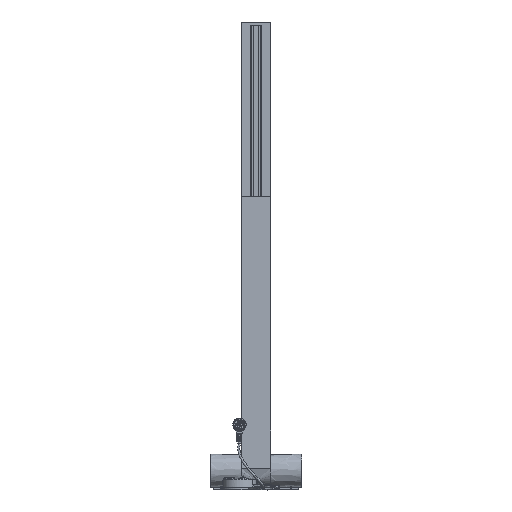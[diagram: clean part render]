
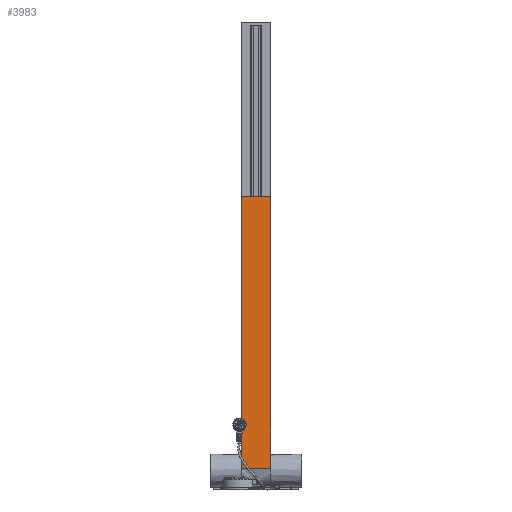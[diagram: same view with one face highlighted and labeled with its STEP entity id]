
A CAD part, left-side view. The second image highlights one B-rep face of the part: STEP entity #3983.
In plain terms, the highlighted free-form (B-spline) face has degree [2, 1] with [3, 2] control points.
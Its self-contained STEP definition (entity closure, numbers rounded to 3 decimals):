
#153=(
BOUNDED_CURVE()
B_SPLINE_CURVE(1,(#57432,#57433),.UNSPECIFIED.,.F.,.F.)
B_SPLINE_CURVE_WITH_KNOTS((2,2),(0.,80.),.UNSPECIFIED.)
CURVE()
GEOMETRIC_REPRESENTATION_ITEM()
RATIONAL_B_SPLINE_CURVE((1.,1.))
REPRESENTATION_ITEM('')
);
#156=(
BOUNDED_CURVE()
B_SPLINE_CURVE(2,(#57555,#57556,#57557),.UNSPECIFIED.,.F.,.F.)
B_SPLINE_CURVE_WITH_KNOTS((3,3),(-780.869,-86.344),
 .UNSPECIFIED.)
CURVE()
GEOMETRIC_REPRESENTATION_ITEM()
RATIONAL_B_SPLINE_CURVE((1.,1.,1.))
REPRESENTATION_ITEM('')
);
#157=(
BOUNDED_CURVE()
B_SPLINE_CURVE(2,(#57562,#57563,#57564),.UNSPECIFIED.,.F.,.F.)
B_SPLINE_CURVE_WITH_KNOTS((3,3),(86.344,780.869),
 .UNSPECIFIED.)
CURVE()
GEOMETRIC_REPRESENTATION_ITEM()
RATIONAL_B_SPLINE_CURVE((1.,1.,1.))
REPRESENTATION_ITEM('')
);
#188=(
BOUNDED_CURVE()
B_SPLINE_CURVE(2,(#58173,#58174,#58175),.UNSPECIFIED.,.F.,.F.)
B_SPLINE_CURVE_WITH_KNOTS((3,3),(-780.869,-86.344),
 .UNSPECIFIED.)
CURVE()
GEOMETRIC_REPRESENTATION_ITEM()
RATIONAL_B_SPLINE_CURVE((1.,1.,1.))
REPRESENTATION_ITEM('')
);
#191=(
BOUNDED_CURVE()
B_SPLINE_CURVE(2,(#58366,#58367,#58368),.UNSPECIFIED.,.F.,.F.)
B_SPLINE_CURVE_WITH_KNOTS((3,3),(86.344,780.869),
 .UNSPECIFIED.)
CURVE()
GEOMETRIC_REPRESENTATION_ITEM()
RATIONAL_B_SPLINE_CURVE((1.,1.,1.))
REPRESENTATION_ITEM('')
);
#2855=(
BOUNDED_SURFACE()
B_SPLINE_SURFACE(2,1,((#57177,#57178),(#57179,#57180),(#57181,#57182)),
 .UNSPECIFIED.,.F.,.F.,.F.)
B_SPLINE_SURFACE_WITH_KNOTS((3,3),(2,2),(22.429,86.344),
(0.,80.),.UNSPECIFIED.)
GEOMETRIC_REPRESENTATION_ITEM()
RATIONAL_B_SPLINE_SURFACE(((1.,1.),(0.778,0.778),
(1.,1.)))
REPRESENTATION_ITEM('')
SURFACE()
);
#2856=(
BOUNDED_SURFACE()
B_SPLINE_SURFACE(2,1,((#57183,#57184),(#57185,#57186),(#57187,#57188)),
 .UNSPECIFIED.,.F.,.F.,.F.)
B_SPLINE_SURFACE_WITH_KNOTS((3,3),(2,2),(86.344,845.805),
(0.,80.),.UNSPECIFIED.)
GEOMETRIC_REPRESENTATION_ITEM()
RATIONAL_B_SPLINE_SURFACE(((1.,1.),(1.,1.),(1.,1.)))
REPRESENTATION_ITEM('')
SURFACE()
);
#3983=ADVANCED_FACE('',(#5710),#2856,.T.);
#5710=FACE_OUTER_BOUND('',#7446,.T.);
#7446=EDGE_LOOP('',(#9424,#9425,#9426,#9427));
#9424=ORIENTED_EDGE('',*,*,#38487,.T.);
#9425=ORIENTED_EDGE('',*,*,#38488,.T.);
#9426=ORIENTED_EDGE('',*,*,#38482,.F.);
#9427=ORIENTED_EDGE('',*,*,#38489,.T.);
#17736=PCURVE('',#2855,#26053);
#17741=PCURVE('',#2856,#26058);
#17742=PCURVE('',#2856,#26059);
#17743=PCURVE('',#2856,#26060);
#17744=PCURVE('',#2856,#26061);
#17804=PCURVE('',#55019,#26121);
#17852=PCURVE('',#55028,#26169);
#17854=PCURVE('',#55029,#26171);
#26053=DEFINITIONAL_REPRESENTATION('',(#42838),#142542);
#26058=DEFINITIONAL_REPRESENTATION('',(#42846),#142542);
#26059=DEFINITIONAL_REPRESENTATION('',(#42847),#142542);
#26060=DEFINITIONAL_REPRESENTATION('',(#42848),#142542);
#26061=DEFINITIONAL_REPRESENTATION('',(#42849),#142542);
#26121=DEFINITIONAL_REPRESENTATION('',(#188),#142542);
#26169=DEFINITIONAL_REPRESENTATION('',(#42991),#142542);
#26171=DEFINITIONAL_REPRESENTATION('',(#191),#142542);
#34282=SURFACE_CURVE('',#153,(#17736,#17743),.PCURVE_S1.);
#34287=SURFACE_CURVE('',#42845,(#17741,#17852),.PCURVE_S1.);
#34288=SURFACE_CURVE('',#156,(#17742,#17804),.PCURVE_S1.);
#34289=SURFACE_CURVE('',#157,(#17744,#17854),.PCURVE_S1.);
#38482=EDGE_CURVE('',#52452,#52453,#34282,.T.);
#38487=EDGE_CURVE('',#52489,#52490,#34287,.T.);
#38488=EDGE_CURVE('',#52490,#52453,#34288,.T.);
#38489=EDGE_CURVE('',#52452,#52489,#34289,.T.);
#42838=B_SPLINE_CURVE_WITH_KNOTS('',1,(#57434,#57435),.UNSPECIFIED.,.F.,
 .F.,(2,2),(0.,80.),.UNSPECIFIED.);
#42845=B_SPLINE_CURVE_WITH_KNOTS('',1,(#57549,#57550),.UNSPECIFIED.,.F.,
 .F.,(2,2),(0.,80.),.UNSPECIFIED.);
#42846=B_SPLINE_CURVE_WITH_KNOTS('',3,(#57551,#57552,#57553,#57554),
 .UNSPECIFIED.,.F.,.F.,(4,4),(0.,80.),.UNSPECIFIED.);
#42847=B_SPLINE_CURVE_WITH_KNOTS('',1,(#57558,#57559),.UNSPECIFIED.,.F.,
 .F.,(2,2),(-780.869,-86.344),.UNSPECIFIED.);
#42848=B_SPLINE_CURVE_WITH_KNOTS('',1,(#57560,#57561),.UNSPECIFIED.,.F.,
 .F.,(2,2),(0.,80.),.UNSPECIFIED.);
#42849=B_SPLINE_CURVE_WITH_KNOTS('',1,(#57565,#57566),.UNSPECIFIED.,.F.,
 .F.,(2,2),(86.344,780.869),.UNSPECIFIED.);
#42991=B_SPLINE_CURVE_WITH_KNOTS('',1,(#58362,#58363),.UNSPECIFIED.,.F.,
 .F.,(2,2),(0.,80.),.UNSPECIFIED.);
#52452=VERTEX_POINT('',#57372);
#52453=VERTEX_POINT('',#57373);
#52489=VERTEX_POINT('',#57409);
#52490=VERTEX_POINT('',#57410);
#55019=B_SPLINE_SURFACE_WITH_KNOTS('',1,1,((#57235,#57236),(#57237,#57238)),
 .UNSPECIFIED.,.F.,.F.,.F.,(2,2),(2,2),(-64.214,41.786),
(0.,1268.086),.UNSPECIFIED.);
#55028=B_SPLINE_SURFACE_WITH_KNOTS('',1,1,((#57301,#57302),(#57303,#57304)),
 .UNSPECIFIED.,.F.,.F.,.F.,(2,2),(2,2),(0.,283.218),(0.,72.011),
 .UNSPECIFIED.);
#55029=B_SPLINE_SURFACE_WITH_KNOTS('',1,1,((#57305,#57306),(#57307,#57308)),
 .UNSPECIFIED.,.F.,.F.,.F.,(2,2),(2,2),(0.,1268.086),(-64.214,
41.786),.UNSPECIFIED.);
#57177=CARTESIAN_POINT('',(805.267,2588.387,339.219));
#57178=CARTESIAN_POINT('',(805.267,2668.387,339.219));
#57179=CARTESIAN_POINT('',(763.482,2588.387,348.266));
#57180=CARTESIAN_POINT('',(763.482,2668.387,348.266));
#57181=CARTESIAN_POINT('',(763.482,2588.387,391.019));
#57182=CARTESIAN_POINT('',(763.482,2668.387,391.019));
#57183=CARTESIAN_POINT('',(763.482,2588.387,391.019));
#57184=CARTESIAN_POINT('',(763.482,2668.387,391.019));
#57185=CARTESIAN_POINT('',(763.482,2588.387,795.769));
#57186=CARTESIAN_POINT('',(763.482,2668.387,795.769));
#57187=CARTESIAN_POINT('',(763.482,2588.387,1200.519));
#57188=CARTESIAN_POINT('',(763.482,2668.387,1200.519));
#57235=CARTESIAN_POINT('',(869.482,2668.387,339.219));
#57236=CARTESIAN_POINT('',(869.482,2668.387,1607.305));
#57237=CARTESIAN_POINT('',(763.482,2668.387,339.219));
#57238=CARTESIAN_POINT('',(763.482,2668.387,1607.305));
#57301=CARTESIAN_POINT('',(810.501,2588.387,1131.305));
#57302=CARTESIAN_POINT('',(738.49,2588.387,1131.305));
#57303=CARTESIAN_POINT('',(810.501,2871.605,1131.305));
#57304=CARTESIAN_POINT('',(738.49,2871.605,1131.305));
#57305=CARTESIAN_POINT('',(869.482,2588.387,339.219));
#57306=CARTESIAN_POINT('',(763.482,2588.387,339.219));
#57307=CARTESIAN_POINT('',(869.482,2588.387,1607.305));
#57308=CARTESIAN_POINT('',(763.482,2588.387,1607.305));
#57372=CARTESIAN_POINT('',(763.482,2588.387,391.019));
#57373=CARTESIAN_POINT('',(763.482,2668.387,391.019));
#57409=CARTESIAN_POINT('',(763.482,2588.387,1131.305));
#57410=CARTESIAN_POINT('',(763.482,2668.387,1131.305));
#57432=CARTESIAN_POINT('',(763.482,2588.387,391.019));
#57433=CARTESIAN_POINT('',(763.482,2668.387,391.019));
#57434=CARTESIAN_POINT('',(86.344,0.));
#57435=CARTESIAN_POINT('',(86.344,80.));
#57549=CARTESIAN_POINT('',(763.482,2588.387,1131.305));
#57550=CARTESIAN_POINT('',(763.482,2668.387,1131.305));
#57551=CARTESIAN_POINT('',(780.869,0.));
#57552=CARTESIAN_POINT('',(780.869,26.667));
#57553=CARTESIAN_POINT('',(780.869,53.333));
#57554=CARTESIAN_POINT('',(780.869,80.));
#57555=CARTESIAN_POINT('',(763.482,2668.387,1131.305));
#57556=CARTESIAN_POINT('',(763.482,2668.387,761.162));
#57557=CARTESIAN_POINT('',(763.482,2668.387,391.019));
#57558=CARTESIAN_POINT('',(780.869,80.));
#57559=CARTESIAN_POINT('',(86.344,80.));
#57560=CARTESIAN_POINT('',(86.344,0.));
#57561=CARTESIAN_POINT('',(86.344,80.));
#57562=CARTESIAN_POINT('',(763.482,2588.387,391.019));
#57563=CARTESIAN_POINT('',(763.482,2588.387,761.162));
#57564=CARTESIAN_POINT('',(763.482,2588.387,1131.305));
#57565=CARTESIAN_POINT('',(86.344,0.));
#57566=CARTESIAN_POINT('',(780.869,0.));
#58173=CARTESIAN_POINT('',(41.786,792.086));
#58174=CARTESIAN_POINT('',(41.786,421.943));
#58175=CARTESIAN_POINT('',(41.786,51.8));
#58362=CARTESIAN_POINT('',(0.,47.019));
#58363=CARTESIAN_POINT('',(80.,47.019));
#58366=CARTESIAN_POINT('',(51.8,41.786));
#58367=CARTESIAN_POINT('',(421.943,41.786));
#58368=CARTESIAN_POINT('',(792.086,41.786));
#142542=(
GEOMETRIC_REPRESENTATION_CONTEXT(2)
PARAMETRIC_REPRESENTATION_CONTEXT()
REPRESENTATION_CONTEXT('pspace','')
);
